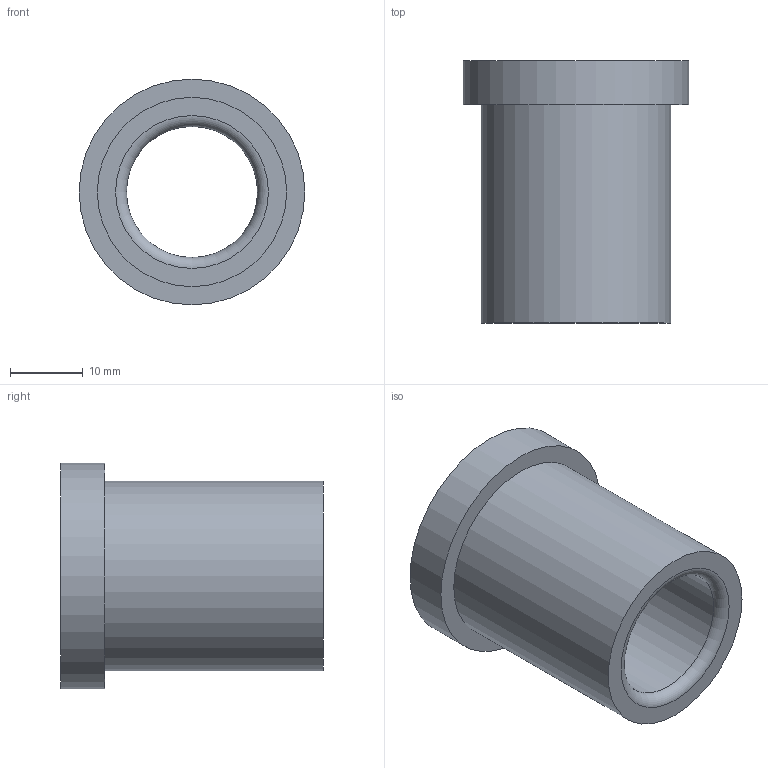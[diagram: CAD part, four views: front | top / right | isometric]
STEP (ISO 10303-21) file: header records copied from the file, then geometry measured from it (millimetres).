
FILE_DESCRIPTION(/* description */ ('STEP AP214'),/* implementation_level */ '2;1');
FILE_NAME(/* name */ '03_12_17918',/* time_stamp */ '2023-06-15T11:35:29+02:00',/* author */ ('License CC BY-ND 4.0'),/* organization */ ('CADENAS'),/* preprocessor_version */ 'ST-DEVELOPER v19.3',/* originating_system */ 'PARTsolutions',/* authorisation */ ' ');
FILE_SCHEMA (('AUTOMOTIVE_DESIGN {1 0 10303 214 3 1 1}'));
Length unit declared in the file: millimetre
Products named in the file (1): VA_Bushing_17918
Bounding box: 31 x 36 x 31 mm (x, y, z)
Volume: 11113.9 mm3; surface area: 6012.7 mm2
Topology: 1 solids, 1 shells, 10 faces, 16 edges, 10 vertices
Faces by surface type: cylinder 4, plane 4, torus 2
Full cylindrical faces by diameter (mm): 18 x1, 18.6 x1, 26 x1, 31 x1
Entity records: 302 total; most frequent: DIRECTION 42, CARTESIAN_POINT 31, AXIS2_PLACEMENT_3D 21, ORIENTED_EDGE 20, EDGE_LOOP 20, FACE_BOUND 20, EDGE_CURVE 10, VERTEX_POINT 10
